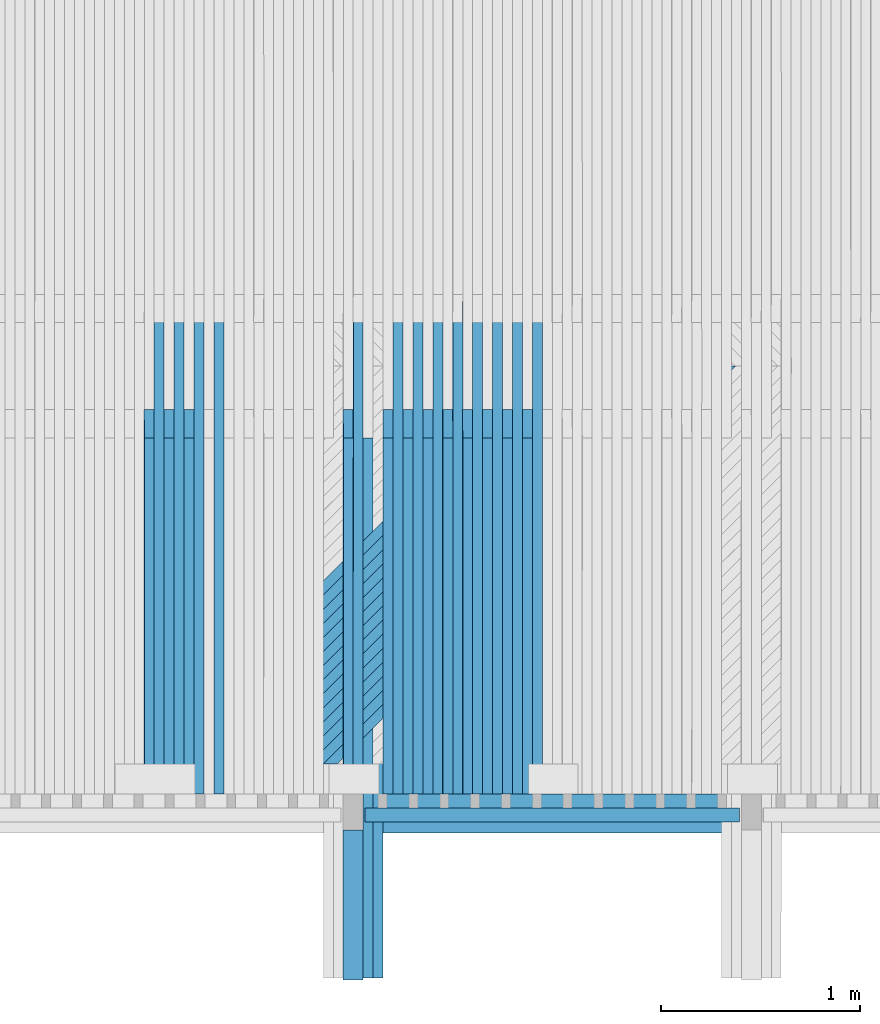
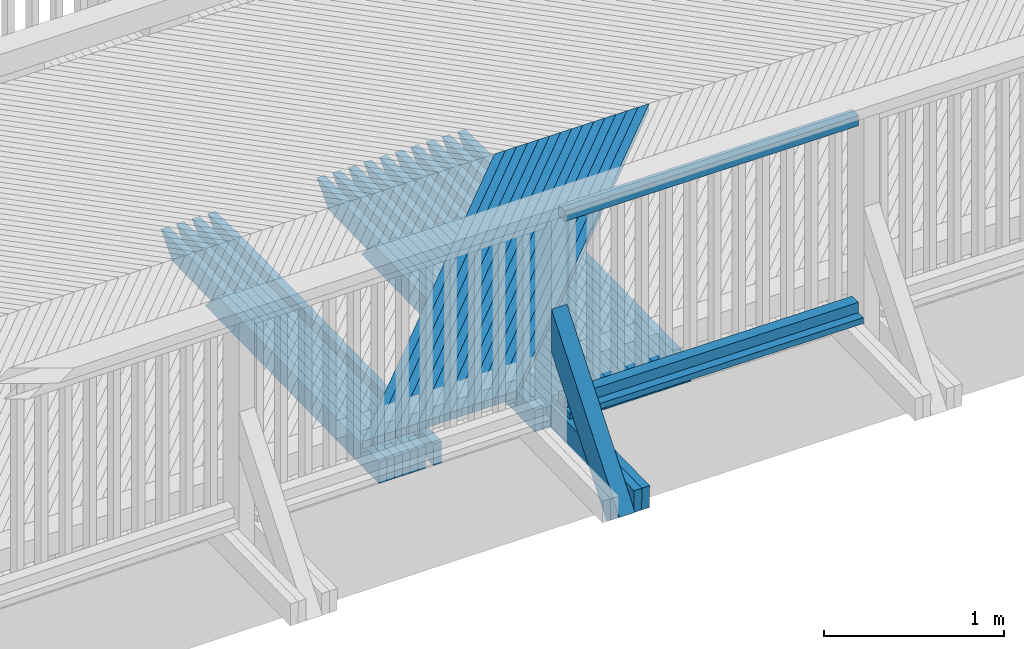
# One storey, part 31 of 53: 44 beams, 1 member.
"""IFC2X3 building model written with IfcOpenShell, lengths in millimetres."""

from ifc_helpers import new_model, si_unit, frame, origin_with_axes, place, context, subcontext, project, spatial, faceted_brep, material, type_object, element, save


model = new_model("IFC2X3")

# Units and contexts
model_context = context("Model", 3, precision=1e-05, world=origin_with_axes())
body_context = subcontext(model_context, "Body", "Model", "MODEL_VIEW")
ifc_project = project(units=[si_unit("LENGTHUNIT", "METRE", prefix="MILLI"), si_unit("AREAUNIT", "SQUARE_METRE"), si_unit("VOLUMEUNIT", "CUBIC_METRE"), si_unit("MASSUNIT", "GRAM", prefix="KILO"), si_unit("TIMEUNIT", "SECOND"), si_unit("PLANEANGLEUNIT", "RADIAN"), si_unit("SOLIDANGLEUNIT", "STERADIAN"), si_unit("THERMODYNAMICTEMPERATUREUNIT", "DEGREE_CELSIUS"), si_unit("LUMINOUSINTENSITYUNIT", "LUMEN")], contexts=[model_context])

# Site, building, storey
site_placement = place(None, origin_with_axes())
site = spatial("IfcSite", under=ifc_project, at=site_placement, Name="Undefined", CompositionType="ELEMENT")
building_placement = place(site_placement, origin_with_axes())
building = spatial("IfcBuilding", under=site, at=building_placement, Name="Undefined", CompositionType="ELEMENT")
storey_placement = place(building_placement, origin_with_axes())
storey = spatial("IfcBuildingStorey", under=building, at=storey_placement, Name="Undefined", CompositionType="ELEMENT", Elevation=0.0)

# Member
ifc_material = material(Name="TIMBER/Timber_Undefined")
member_type = type_object("IfcMemberType", Name="180*100", PredefinedType="NOTDEFINED")
member_placement = place(storey_placement, frame((10000.0064146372, 39351.2316008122, 2950.63480506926), z_axis=(0.0, -0.783926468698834, 0.620853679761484), x_axis=(-4.01699999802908e-06, 0.620853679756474, 0.783926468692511)))
element("IfcMember", 1, at=member_placement, inside=storey, type_object=member_type, material=ifc_material, Name="KAIDEPYLVÄS", ObjectType="180*100", context=body_context, shape_type="Brep", body=[
    faceted_brep([(0.0, 50.0, -89.9999999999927), (0.0, 50.0, 90.0), (1214.99480886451, 50.0000000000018, 90.0000000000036), (987.716194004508, 50.0, -89.9999999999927), (0.0, -49.9999999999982, 90.0000000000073), (1214.99440716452, -49.9999999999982, 90.0000000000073), (-3.63797880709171e-12, -49.9999999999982, -90.0), (987.715792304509, -49.9999999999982, -89.9999999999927)], [[[0, 1, 2, 3]], [[1, 4, 5, 2]], [[4, 6, 7, 5]], [[6, 0, 3, 7]], [[5, 7, 3, 2]], [[6, 4, 1, 0]]]),
])

# Beams
beam_type_1 = type_object("IfcBeamType", Name="70*70", PredefinedType="NOTDEFINED")
for number, where, z_axis, x_axis, name in (
    (2, (10059.8168055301, 40110.0099310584, 3259.925078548), (0.0, -1.0, 0.0), (0.999986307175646, 0.0, -0.00523311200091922), "BEAM"),
    (3, (10059.8168055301, 40110.0099310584, 4524.925078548), (0.0, -1.0, 0.0), (0.999986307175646, 0.0, -0.00523311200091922), "BEAM"),
):
    element("IfcBeam", number, at=place(storey_placement, frame(where, z_axis=z_axis, x_axis=x_axis)), inside=storey, type_object=beam_type_1, material=ifc_material, Name=name, ObjectType="70*70", context=body_context, shape_type="Brep", body=[
        faceted_brep([(-3.63797880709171e-12, 35.0000000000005, -35.0), (-3.63797880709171e-12, 35.0000000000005, 35.0), (1880.02601672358, 34.9999999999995, 35.0), (1880.02601672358, 34.9999999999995, -35.0), (-3.63797880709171e-12, -34.9999999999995, 35.0), (1880.02601672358, -35.0000000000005, 35.0), (-3.63797880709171e-12, -34.9999999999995, -35.0), (1880.02601672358, -35.0000000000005, -35.0)], [[[0, 1, 2, 3]], [[1, 4, 5, 2]], [[4, 6, 7, 5]], [[6, 0, 3, 7]], [[5, 7, 3, 2]], [[6, 4, 1, 0]]]),
    ])
beam_type_2 = type_object("IfcBeamType", Name="195*40", PredefinedType="NOTDEFINED")
beam_1_placement = place(storey_placement, frame((10058.6727720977, 40117.5099310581, 3204.93956033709), z_axis=(0.0, -1.0, 0.0), x_axis=(0.999986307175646, 0.0, -0.00523311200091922)))
element("IfcBeam", 4, at=beam_1_placement, inside=storey, type_object=beam_type_2, material=ifc_material, Name="BEAM", ObjectType="195*40", context=body_context, shape_type="Brep", body=[
    faceted_brep([(0.0, 20.0, -97.5), (0.0, 20.0, 97.5), (1880.22135781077, 19.9999999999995, 97.5), (1880.22135781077, 19.9999999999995, -97.5), (3.63797880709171e-12, -20.0, 97.5), (1880.22135781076, -20.0000000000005, 97.5), (3.63797880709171e-12, -20.0, -97.5), (1880.22135781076, -20.0000000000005, -97.5)], [[[0, 1, 2, 3]], [[1, 4, 5, 2]], [[4, 6, 7, 5]], [[6, 0, 3, 7]], [[5, 7, 3, 2]], [[6, 4, 1, 0]]]),
])
beam_type_3 = type_object("IfcBeamType", Name="50*50", PredefinedType="NOTDEFINED")
for number, where, z_axis, x_axis, name in (
    (5, (11884.1639920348, 42364.5001003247, 3223.59371167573), (0.707016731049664, -0.706981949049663, -0.0174317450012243), (-0.707181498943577, -0.706948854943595, -0.0108463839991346), "BEAM"),
    (6, (11813.441203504, 42364.5001003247, 3224.04579456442), (0.707018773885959, -0.706981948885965, -0.0173486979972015), (-0.707180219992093, -0.706948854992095, -0.0109294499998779), "BEAM"),
    (7, (11742.718362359, 42364.5001003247, 3224.48957030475), (0.707020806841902, -0.706981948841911, -0.0172656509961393), (-0.707178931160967, -0.706948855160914, -0.0110125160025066), "BEAM"),
    (8, (11671.9954695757, 42364.5001003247, 3224.92503889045), (0.707022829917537, -0.706981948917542, -0.017182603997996), (-0.707177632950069, -0.706948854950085, -0.0110955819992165), "BEAM"),
    (9, (11601.2725261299, 42364.5001003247, 3225.35220031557), (0.707024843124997, -0.706981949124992, -0.0170995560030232), (-0.707176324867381, -0.706948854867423, -0.0111786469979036), "BEAM"),
    (10, (11530.5495329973, 42364.5001003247, 3225.7710545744), (0.707026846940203, -0.706981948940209, -0.0170165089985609), (-0.707175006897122, -0.706948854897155, -0.0112617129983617), "BEAM"),
    (11, (11459.8264911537, 42364.5001003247, 3226.18160166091), (0.7070288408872, -0.706981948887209, -0.0169334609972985), (-0.707173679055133, -0.706948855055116, -0.0113447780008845), "BEAM"),
    (12, (11389.1034015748, 42364.5001003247, 3226.58384156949), (0.70703082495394, -0.706981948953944, -0.0168504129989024), (-0.70717234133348, -0.706948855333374, -0.011427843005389), "BEAM"),
    (13, (11318.3802652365, 42364.5001003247, 3226.97777429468), (0.707032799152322, -0.706981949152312, -0.0167673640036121), (-0.707170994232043, -0.70694885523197, -0.0115109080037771), "BEAM"),
    (14, (11247.6570831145, 42364.5001003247, 3227.363399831), (0.707034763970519, -0.706981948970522, -0.0166843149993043), (-0.707169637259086, -0.706948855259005, -0.0115939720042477), "BEAM"),
    (15, (11176.9338561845, 42364.5001003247, 3227.7407181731), (0.707036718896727, -0.706981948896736, -0.0166012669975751), (-0.707168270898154, -0.706948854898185, -0.0116770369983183), "BEAM"),
    (16, (11106.2105854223, 42364.5001003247, 3228.10972931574), (0.707038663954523, -0.706981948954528, -0.0165182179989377), (-0.70716689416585, -0.706948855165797, -0.011760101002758), "BEAM"),
    (17, (11035.4872718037, 42364.5001003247, 3228.47043325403), (0.707040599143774, -0.706981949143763, -0.016435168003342), (-0.707165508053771, -0.706948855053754, -0.0118431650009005), "BEAM"),
    (18, (10964.7639163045, 42364.5001003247, 3228.82282998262), (0.707042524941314, -0.706981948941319, -0.0163521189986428), (-0.707164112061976, -0.706948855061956, -0.0119262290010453), "BEAM"),
):
    element("IfcBeam", number, at=place(storey_placement, frame(where, z_axis=z_axis, x_axis=x_axis)), inside=storey, type_object=beam_type_3, material=ifc_material, Name=name, ObjectType="50*50", context=body_context, shape_type="Brep", body=[
        faceted_brep([(24.8942457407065, 25.0, -25.0), (-25.0086637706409, 24.9999999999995, 24.9999999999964), (2804.34067830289, 25.0, 25.0000000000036), (2854.34301907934, 24.9999999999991, -25.0000000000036), (-26.4222658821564, -25.0000000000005, 25.0000000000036), (2802.92643296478, -25.0, 25.0), (23.4806436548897, -25.0, -25.0), (2852.92877373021, -25.0000000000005, -25.0000000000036)], [[[0, 1, 2, 3]], [[1, 4, 5, 2]], [[4, 6, 7, 5]], [[6, 0, 3, 7]], [[5, 7, 3, 2]], [[6, 4, 1, 0]]]),
    ])
beam_type_4 = type_object("IfcBeamType", Name="150*50", PredefinedType="NOTDEFINED")
beam_2_placement = place(storey_placement, frame((10125.0217457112, 39292.7893475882, 3070.9202994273), z_axis=(0.00353218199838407, -0.0199960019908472, 0.999793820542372), x_axis=(6.92069999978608e-05, 0.999800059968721, 0.0199958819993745)))
element("IfcBeam", 19, at=beam_2_placement, inside=storey, type_object=beam_type_4, material=ifc_material, Name="BEAM", ObjectType="150*50", context=body_context, shape_type="Brep", body=[
    faceted_brep([(1.28420651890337e-08, -24.9999999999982, -74.9999999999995), (-1.28347892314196e-08, -24.9999999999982, 75.0), (-1.28347892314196e-08, 25.0, 75.0), (1.28420651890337e-08, 25.0000000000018, -75.0), (3298.90497884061, 24.9999999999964, -74.9999999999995), (3298.90492234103, -25.0, -74.9999999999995), (3434.49245887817, -25.0, 60.5875365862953), (3074.32497546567, -25.0000000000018, 75.0000000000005), (3074.32503673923, 25.0000000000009, 75.0), (3434.49251531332, 24.9999999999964, 60.5875365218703)], [[[0, 1, 2, 3]], [[0, 3, 4, 5]], [[1, 0, 5, 6, 7]], [[2, 1, 7, 8]], [[4, 3, 2, 8, 9]], [[5, 4, 9, 6]], [[8, 7, 6, 9]]]),
])
beam_3_placement = place(storey_placement, frame((10075.0042720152, 39292.7893321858, 3071.09700537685), z_axis=(0.00336606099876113, -0.0199960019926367, 0.999794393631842), x_axis=(6.61229999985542e-05, 0.999800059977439, 0.0199958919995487)))
element("IfcBeam", 20, at=beam_3_placement, inside=storey, type_object=beam_type_4, material=ifc_material, Name="BEAM", ObjectType="150*50", context=body_context, shape_type="Brep", body=[
    faceted_brep([(1.28420651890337e-08, -24.9999999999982, -74.9999999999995), (-1.28347892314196e-08, -24.9999999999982, 75.0), (-1.28347892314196e-08, 25.0, 75.0), (1.28420651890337e-08, 25.0000000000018, -75.0), (2713.86938248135, -25.0000000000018, 74.9999999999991), (2713.86933800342, 25.0000000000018, 75.0), (2852.32643692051, 24.9999999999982, -75.0000000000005), (2852.32648139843, -25.0000000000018, -75.0000000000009)], [[[0, 1, 2, 3]], [[2, 1, 4, 5]], [[3, 2, 5, 6]], [[0, 3, 6, 7]], [[1, 0, 7, 4]], [[7, 6, 5, 4]]]),
])
beam_4_placement = place(storey_placement, frame((10875.1411031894, 40216.5046076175, 3086.28180497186), z_axis=(0.00469590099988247, -0.0199960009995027, 0.99978903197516), x_axis=(9.39180000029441e-05, 0.999800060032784, 0.0199957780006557)))
element("IfcBeam", 21, at=beam_4_placement, inside=storey, type_object=beam_type_4, material=ifc_material, Name="BEAM", ObjectType="150*50", context=body_context, shape_type="Brep", body=[
    faceted_brep([(1.28420651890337e-08, -24.9999999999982, -74.9999999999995), (-1.28347892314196e-08, -24.9999999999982, 75.0), (-1.28347892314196e-08, 25.0, 75.0), (1.28420651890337e-08, 25.0000000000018, -75.0), (1789.96936433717, -25.0000000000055, 74.9999999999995), (1789.96936408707, 24.9999999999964, 75.0000000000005), (1928.42646328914, 24.9999999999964, -74.9999999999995), (1928.42646353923, -25.0000000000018, -75.0)], [[[0, 1, 2, 3]], [[2, 1, 4, 5]], [[3, 2, 5, 6]], [[0, 3, 6, 7]], [[1, 0, 7, 4]], [[6, 5, 4, 7]]]),
])
beam_5_placement = place(storey_placement, frame((10925.1605446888, 40216.5046076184, 3086.03855962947), z_axis=(0.00486202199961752, -0.0199960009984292, 0.999788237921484), x_axis=(9.72400000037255e-05, 0.999800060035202, 0.0199957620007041)))
element("IfcBeam", 22, at=beam_5_placement, inside=storey, type_object=beam_type_4, material=ifc_material, Name="BEAM", ObjectType="150*50", context=body_context, shape_type="Brep", body=[
    faceted_brep([(1.28420651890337e-08, -24.9999999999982, -74.9999999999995), (-1.28347892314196e-08, -24.9999999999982, 75.0), (-1.28347892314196e-08, 25.0, 75.0), (1.28420651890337e-08, 25.0000000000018, -75.0), (2375.00494422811, 25.0000000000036, -75.0), (2375.0049444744, -24.9999999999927, -74.9999999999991), (2510.5924871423, -24.9999999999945, 60.5875430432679), (2150.42514405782, -24.9999999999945, 75.0), (2150.42515052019, 25.0000000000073, 75.0), (2510.59248715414, 25.0000000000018, 60.5875433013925)], [[[0, 1, 2, 3]], [[0, 3, 4, 5]], [[1, 0, 5, 6, 7]], [[2, 1, 7, 8]], [[4, 3, 2, 8, 9]], [[5, 4, 9, 6]], [[6, 9, 8, 7]]]),
])
beam_6_placement = place(storey_placement, frame((10775.1221713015, 40216.5046076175, 3086.75121569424), z_axis=(0.00452978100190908, -0.01999600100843, 0.999789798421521), x_axis=(9.05950000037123e-05, 0.999800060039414, 0.0199957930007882)))
element("IfcBeam", 23, at=beam_6_placement, inside=storey, type_object=beam_type_4, material=ifc_material, Name="BEAM", ObjectType="150*50", context=body_context, shape_type="Brep", body=[
    faceted_brep([(1.28420651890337e-08, -24.9999999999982, -74.9999999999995), (-1.28347892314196e-08, -24.9999999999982, 75.0), (-1.28347892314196e-08, 25.0, 75.0), (1.28420651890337e-08, 25.0000000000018, -75.0), (1789.96936433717, -25.0000000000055, 74.9999999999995), (1789.96936408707, 24.9999999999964, 75.0000000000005), (1928.42646328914, 24.9999999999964, -74.9999999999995), (1928.42646353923, -25.0000000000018, -75.0)], [[[0, 1, 2, 3]], [[2, 1, 4, 5]], [[3, 2, 5, 6]], [[0, 3, 6, 7]], [[1, 0, 7, 4]], [[6, 5, 4, 7]]]),
])
beam_7_placement = place(storey_placement, frame((10825.141652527, 40216.5046076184, 3086.51628135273), z_axis=(0.00469590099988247, -0.0199960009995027, 0.99978903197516), x_axis=(9.39180000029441e-05, 0.999800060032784, 0.0199957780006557)))
element("IfcBeam", 24, at=beam_7_placement, inside=storey, type_object=beam_type_4, material=ifc_material, Name="BEAM", ObjectType="150*50", context=body_context, shape_type="Brep", body=[
    faceted_brep([(1.28420651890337e-08, -24.9999999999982, -74.9999999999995), (-1.28347892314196e-08, -24.9999999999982, 75.0), (-1.28347892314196e-08, 25.0, 75.0), (1.28420651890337e-08, 25.0000000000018, -75.0), (2375.00494422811, 25.0000000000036, -75.0), (2375.0049444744, -24.9999999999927, -74.9999999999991), (2510.5924871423, -24.9999999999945, 60.5875430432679), (2150.42514405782, -24.9999999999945, 75.0), (2150.42515052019, 25.0000000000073, 75.0), (2510.59248715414, 25.0000000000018, 60.5875433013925)], [[[0, 1, 2, 3]], [[0, 3, 4, 5]], [[1, 0, 5, 6, 7]], [[2, 1, 7, 8]], [[4, 3, 2, 8, 9]], [[5, 4, 9, 6]], [[6, 9, 8, 7]]]),
])
beam_8_placement = place(storey_placement, frame((10675.1031627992, 40216.5046076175, 3087.20400773), z_axis=(0.00436366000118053, -0.0199960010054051, 0.999790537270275), x_axis=(8.72730000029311e-05, 0.999800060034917, 0.0199958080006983)))
element("IfcBeam", 25, at=beam_8_placement, inside=storey, type_object=beam_type_4, material=ifc_material, Name="BEAM", ObjectType="150*50", context=body_context, shape_type="Brep", body=[
    faceted_brep([(1.28420651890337e-08, -24.9999999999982, -74.9999999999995), (-1.28347892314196e-08, -24.9999999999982, 75.0), (-1.28347892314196e-08, 25.0, 75.0), (1.28420651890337e-08, 25.0000000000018, -75.0), (1789.96936433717, -25.0000000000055, 74.9999999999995), (1789.96936408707, 24.9999999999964, 75.0000000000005), (1928.42646328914, 24.9999999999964, -74.9999999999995), (1928.42646353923, -25.0000000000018, -75.0)], [[[0, 1, 2, 3]], [[2, 1, 4, 5]], [[3, 2, 5, 6]], [[0, 3, 6, 7]], [[1, 0, 7, 4]], [[6, 5, 4, 7]]]),
])
beam_9_placement = place(storey_placement, frame((10725.1226823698, 40216.5046076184, 3086.9773843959), z_axis=(0.00452978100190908, -0.01999600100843, 0.999789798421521), x_axis=(9.05950000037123e-05, 0.999800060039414, 0.0199957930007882)))
element("IfcBeam", 26, at=beam_9_placement, inside=storey, type_object=beam_type_4, material=ifc_material, Name="BEAM", ObjectType="150*50", context=body_context, shape_type="Brep", body=[
    faceted_brep([(1.28420651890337e-08, -24.9999999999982, -74.9999999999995), (-1.28347892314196e-08, -24.9999999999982, 75.0), (-1.28347892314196e-08, 25.0, 75.0), (1.28420651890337e-08, 25.0000000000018, -75.0), (2375.00494422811, 25.0000000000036, -75.0), (2375.0049444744, -24.9999999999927, -74.9999999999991), (2510.5924871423, -24.9999999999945, 60.5875430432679), (2150.42514405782, -24.9999999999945, 75.0), (2150.42515052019, 25.0000000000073, 75.0), (2510.59248715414, 25.0000000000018, 60.5875433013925)], [[[0, 1, 2, 3]], [[0, 3, 4, 5]], [[1, 0, 5, 6, 7]], [[2, 1, 7, 8]], [[4, 3, 2, 8, 9]], [[5, 4, 9, 6]], [[6, 9, 8, 7]]]),
])
beam_10_placement = place(storey_placement, frame((10575.0840804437, 40216.5046076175, 3087.64018106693), z_axis=(0.00419753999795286, -0.0199960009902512, 0.99979124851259), x_axis=(8.39510000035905e-05, 0.999800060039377, 0.0199958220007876)))
element("IfcBeam", 27, at=beam_10_placement, inside=storey, type_object=beam_type_4, material=ifc_material, Name="BEAM", ObjectType="150*50", context=body_context, shape_type="Brep", body=[
    faceted_brep([(1.28420651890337e-08, -24.9999999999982, -74.9999999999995), (-1.28347892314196e-08, -24.9999999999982, 75.0), (-1.28347892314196e-08, 25.0, 75.0), (1.28420651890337e-08, 25.0000000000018, -75.0), (1789.96936433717, -25.0000000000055, 74.9999999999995), (1789.96936408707, 24.9999999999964, 75.0000000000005), (1928.42646328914, 24.9999999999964, -74.9999999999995), (1928.42646353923, -25.0000000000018, -75.0)], [[[0, 1, 2, 3]], [[2, 1, 4, 5]], [[3, 2, 5, 6]], [[0, 3, 6, 7]], [[1, 0, 7, 4]], [[6, 5, 4, 7]]]),
])
beam_11_placement = place(storey_placement, frame((10625.1036369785, 40216.5046076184, 3087.4218687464), z_axis=(0.00436366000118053, -0.0199960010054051, 0.999790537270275), x_axis=(8.72730000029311e-05, 0.999800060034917, 0.0199958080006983)))
element("IfcBeam", 28, at=beam_11_placement, inside=storey, type_object=beam_type_4, material=ifc_material, Name="BEAM", ObjectType="150*50", context=body_context, shape_type="Brep", body=[
    faceted_brep([(1.28420651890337e-08, -24.9999999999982, -74.9999999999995), (-1.28347892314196e-08, -24.9999999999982, 75.0), (-1.28347892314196e-08, 25.0, 75.0), (1.28420651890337e-08, 25.0000000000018, -75.0), (2375.00494422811, 25.0000000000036, -75.0), (2375.0049444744, -24.9999999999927, -74.9999999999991), (2510.5924871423, -24.9999999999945, 60.5875430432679), (2150.42514405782, -24.9999999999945, 75.0), (2150.42515052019, 25.0000000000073, 75.0), (2510.59248715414, 25.0000000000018, 60.5875433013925)], [[[0, 1, 2, 3]], [[0, 3, 4, 5]], [[1, 0, 5, 6, 7]], [[2, 1, 7, 8]], [[4, 3, 2, 8, 9]], [[5, 4, 9, 6]], [[6, 9, 8, 7]]]),
])
beam_12_placement = place(storey_placement, frame((10475.0649269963, 40216.5046076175, 3088.05973569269), z_axis=(0.00403141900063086, -0.0199960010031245, 0.999791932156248), x_axis=(8.0628000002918e-05, 0.999800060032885, 0.0199958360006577)))
element("IfcBeam", 29, at=beam_12_placement, inside=storey, type_object=beam_type_4, material=ifc_material, Name="BEAM", ObjectType="150*50", context=body_context, shape_type="Brep", body=[
    faceted_brep([(1.28420651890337e-08, -24.9999999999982, -74.9999999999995), (-1.28347892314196e-08, -24.9999999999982, 75.0), (-1.28347892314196e-08, 25.0, 75.0), (1.28420651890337e-08, 25.0000000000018, -75.0), (1789.96936433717, -25.0000000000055, 74.9999999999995), (1789.96936408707, 24.9999999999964, 75.0000000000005), (1928.42646328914, 24.9999999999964, -74.9999999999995), (1928.42646353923, -25.0000000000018, -75.0)], [[[0, 1, 2, 3]], [[2, 1, 4, 5]], [[3, 2, 5, 6]], [[0, 3, 6, 7]], [[1, 0, 7, 4]], [[6, 5, 4, 7]]]),
])
beam_13_placement = place(storey_placement, frame((10525.0845191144, 40216.5046076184, 3087.84973439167), z_axis=(0.00419753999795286, -0.0199960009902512, 0.99979124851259), x_axis=(8.39510000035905e-05, 0.999800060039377, 0.0199958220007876)))
element("IfcBeam", 30, at=beam_13_placement, inside=storey, type_object=beam_type_4, material=ifc_material, Name="BEAM", ObjectType="150*50", context=body_context, shape_type="Brep", body=[
    faceted_brep([(1.28420651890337e-08, -24.9999999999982, -74.9999999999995), (-1.28347892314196e-08, -24.9999999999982, 75.0), (-1.28347892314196e-08, 25.0, 75.0), (1.28420651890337e-08, 25.0000000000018, -75.0), (2375.00494422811, 25.0000000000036, -75.0), (2375.0049444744, -24.9999999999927, -74.9999999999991), (2510.5924871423, -24.9999999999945, 60.5875430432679), (2150.42514405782, -24.9999999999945, 75.0), (2150.42515052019, 25.0000000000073, 75.0), (2510.59248715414, 25.0000000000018, 60.5875433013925)], [[[0, 1, 2, 3]], [[0, 3, 4, 5]], [[1, 0, 5, 6, 7]], [[2, 1, 7, 8]], [[4, 3, 2, 8, 9]], [[5, 4, 9, 6]], [[6, 9, 8, 7]]]),
])
beam_14_placement = place(storey_placement, frame((10375.0457052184, 40216.5046076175, 3088.46267159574), z_axis=(0.00386529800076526, -0.0199960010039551, 0.99979258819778), x_axis=(7.7306000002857e-05, 0.999800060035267, 0.0199958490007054)))
element("IfcBeam", 31, at=beam_14_placement, inside=storey, type_object=beam_type_4, material=ifc_material, Name="BEAM", ObjectType="150*50", context=body_context, shape_type="Brep", body=[
    faceted_brep([(1.28420651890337e-08, -24.9999999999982, -74.9999999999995), (-1.28347892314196e-08, -24.9999999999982, 75.0), (-1.28347892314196e-08, 25.0, 75.0), (1.28420651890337e-08, 25.0000000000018, -75.0), (1789.96936433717, -25.0000000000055, 74.9999999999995), (1789.96936408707, 24.9999999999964, 75.0000000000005), (1928.42646328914, 24.9999999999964, -74.9999999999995), (1928.42646353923, -25.0000000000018, -75.0)], [[[0, 1, 2, 3]], [[2, 1, 4, 5]], [[3, 2, 5, 6]], [[0, 3, 6, 7]], [[1, 0, 7, 4]], [[6, 5, 4, 7]]]),
])
beam_15_placement = place(storey_placement, frame((10425.0653315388, 40216.5046076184, 3088.26098132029), z_axis=(0.00403141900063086, -0.0199960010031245, 0.999791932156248), x_axis=(8.0628000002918e-05, 0.999800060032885, 0.0199958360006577)))
element("IfcBeam", 32, at=beam_15_placement, inside=storey, type_object=beam_type_4, material=ifc_material, Name="BEAM", ObjectType="150*50", context=body_context, shape_type="Brep", body=[
    faceted_brep([(1.28420651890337e-08, -24.9999999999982, -74.9999999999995), (-1.28347892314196e-08, -24.9999999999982, 75.0), (-1.28347892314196e-08, 25.0, 75.0), (1.28420651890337e-08, 25.0000000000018, -75.0), (2375.00494422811, 25.0000000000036, -75.0), (2375.0049444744, -24.9999999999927, -74.9999999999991), (2510.5924871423, -24.9999999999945, 60.5875430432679), (2150.42514405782, -24.9999999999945, 75.0), (2150.42515052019, 25.0000000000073, 75.0), (2510.59248715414, 25.0000000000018, 60.5875433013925)], [[[0, 1, 2, 3]], [[0, 3, 4, 5]], [[1, 0, 5, 6, 7]], [[2, 1, 7, 8]], [[4, 3, 2, 8, 9]], [[5, 4, 9, 6]], [[6, 9, 8, 7]]]),
])
beam_16_placement = place(storey_placement, frame((10275.0264178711, 40216.5046076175, 3088.84898876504), z_axis=(0.00369917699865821, -0.0199960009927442, 0.999793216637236), x_axis=(7.39830000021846e-05, 0.999800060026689, 0.0199958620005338)))
element("IfcBeam", 33, at=beam_16_placement, inside=storey, type_object=beam_type_4, material=ifc_material, Name="BEAM", ObjectType="150*50", context=body_context, shape_type="Brep", body=[
    faceted_brep([(1.28420651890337e-08, -24.9999999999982, -74.9999999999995), (-1.28347892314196e-08, -24.9999999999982, 75.0), (-1.28347892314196e-08, 25.0, 75.0), (1.28420651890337e-08, 25.0000000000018, -75.0), (1789.96936433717, -25.0000000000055, 74.9999999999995), (1789.96936408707, 24.9999999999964, 75.0000000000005), (1928.42646328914, 24.9999999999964, -74.9999999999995), (1928.42646353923, -25.0000000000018, -75.0)], [[[0, 1, 2, 3]], [[2, 1, 4, 5]], [[3, 2, 5, 6]], [[0, 3, 6, 7]], [[1, 0, 7, 4]], [[6, 5, 4, 7]]]),
])
beam_17_placement = place(storey_placement, frame((10325.046077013, 40216.5046076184, 3088.65560952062), z_axis=(0.00386529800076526, -0.0199960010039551, 0.99979258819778), x_axis=(7.7306000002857e-05, 0.999800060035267, 0.0199958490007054)))
element("IfcBeam", 34, at=beam_17_placement, inside=storey, type_object=beam_type_4, material=ifc_material, Name="BEAM", ObjectType="150*50", context=body_context, shape_type="Brep", body=[
    faceted_brep([(1.28420651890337e-08, -24.9999999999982, -74.9999999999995), (-1.28347892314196e-08, -24.9999999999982, 75.0), (-1.28347892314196e-08, 25.0, 75.0), (1.28420651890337e-08, 25.0000000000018, -75.0), (2375.00494422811, 25.0000000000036, -75.0), (2375.0049444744, -24.9999999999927, -74.9999999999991), (2510.5924871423, -24.9999999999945, 60.5875430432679), (2150.42514405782, -24.9999999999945, 75.0), (2150.42515052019, 25.0000000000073, 75.0), (2510.59248715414, 25.0000000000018, 60.5875433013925)], [[[0, 1, 2, 3]], [[0, 3, 4, 5]], [[1, 0, 5, 6, 7]], [[2, 1, 7, 8]], [[4, 3, 2, 8, 9]], [[5, 4, 9, 6]], [[6, 9, 8, 7]]]),
])
beam_18_placement = place(storey_placement, frame((10175.0070677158, 40216.5046076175, 3089.21868718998), z_axis=(0.00353218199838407, -0.0199960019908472, 0.999793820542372), x_axis=(7.06610000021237e-05, 0.999800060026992, 0.0199958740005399)))
element("IfcBeam", 35, at=beam_18_placement, inside=storey, type_object=beam_type_4, material=ifc_material, Name="BEAM", ObjectType="150*50", context=body_context, shape_type="Brep", body=[
    faceted_brep([(1.28420651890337e-08, -24.9999999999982, -74.9999999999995), (-1.28347892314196e-08, -24.9999999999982, 75.0), (-1.28347892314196e-08, 25.0, 75.0), (1.28420651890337e-08, 25.0000000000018, -75.0), (1789.96936433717, -25.0000000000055, 74.9999999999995), (1789.96936408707, 24.9999999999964, 75.0000000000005), (1928.42646328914, 24.9999999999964, -74.9999999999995), (1928.42646353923, -25.0000000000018, -75.0)], [[[0, 1, 2, 3]], [[2, 1, 4, 5]], [[3, 2, 5, 6]], [[0, 3, 6, 7]], [[1, 0, 7, 4]], [[6, 5, 4, 7]]]),
])
beam_19_placement = place(storey_placement, frame((10225.0267582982, 40216.5046076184, 3089.03361898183), z_axis=(0.00369917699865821, -0.0199960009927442, 0.999793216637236), x_axis=(7.39830000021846e-05, 0.999800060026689, 0.0199958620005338)))
element("IfcBeam", 36, at=beam_19_placement, inside=storey, type_object=beam_type_4, material=ifc_material, Name="BEAM", ObjectType="150*50", context=body_context, shape_type="Brep", body=[
    faceted_brep([(1.28420651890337e-08, -24.9999999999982, -74.9999999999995), (-1.28347892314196e-08, -24.9999999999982, 75.0), (-1.28347892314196e-08, 25.0, 75.0), (1.28420651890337e-08, 25.0000000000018, -75.0), (2375.00494422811, 25.0000000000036, -75.0), (2375.0049444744, -24.9999999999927, -74.9999999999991), (2510.5924871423, -24.9999999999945, 60.5875430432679), (2150.42514405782, -24.9999999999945, 75.0), (2150.42515052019, 25.0000000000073, 75.0), (2510.59248715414, 25.0000000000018, 60.5875433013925)], [[[0, 1, 2, 3]], [[0, 3, 4, 5]], [[1, 0, 5, 6, 7]], [[2, 1, 7, 8]], [[4, 3, 2, 8, 9]], [[5, 4, 9, 6]], [[6, 9, 8, 7]]]),
])
beam_20_placement = place(storey_placement, frame((9974.96819002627, 40216.5046076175, 3089.90822776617), z_axis=(0.00319994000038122, -0.0199960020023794, 0.999794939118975), x_axis=(6.36899999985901e-05, 0.99980005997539, 0.0199958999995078)))
element("IfcBeam", 37, at=beam_20_placement, inside=storey, type_object=beam_type_4, material=ifc_material, Name="BEAM", ObjectType="150*50", context=body_context, shape_type="Brep", body=[
    faceted_brep([(1.28420651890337e-08, -24.9999999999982, -74.9999999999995), (-1.28347892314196e-08, -24.9999999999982, 75.0), (-1.28347892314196e-08, 25.0, 75.0), (1.28420651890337e-08, 25.0000000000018, -75.0), (1789.96936433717, -25.0000000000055, 74.9999999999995), (1789.96936408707, 24.9999999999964, 75.0000000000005), (1928.42646328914, 24.9999999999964, -74.9999999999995), (1928.42646353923, -25.0000000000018, -75.0)], [[[0, 1, 2, 3]], [[2, 1, 4, 5]], [[3, 2, 5, 6]], [[0, 3, 6, 7]], [[1, 0, 7, 4]], [[6, 5, 4, 7]]]),
])
beam_21_placement = place(storey_placement, frame((10024.987939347, 40216.5046076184, 3089.73978164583), z_axis=(0.00336606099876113, -0.0199960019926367, 0.999794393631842), x_axis=(6.73390000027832e-05, 0.999800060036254, 0.0199958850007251)))
element("IfcBeam", 38, at=beam_21_placement, inside=storey, type_object=beam_type_4, material=ifc_material, Name="BEAM", ObjectType="150*50", context=body_context, shape_type="Brep", body=[
    faceted_brep([(1.28420651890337e-08, -24.9999999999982, -74.9999999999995), (-1.28347892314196e-08, -24.9999999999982, 75.0), (-1.28347892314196e-08, 25.0, 75.0), (1.28420651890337e-08, 25.0000000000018, -75.0), (2375.00494422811, 25.0000000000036, -75.0), (2375.0049444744, -24.9999999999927, -74.9999999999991), (2510.5924871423, -24.9999999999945, 60.5875430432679), (2150.42514405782, -24.9999999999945, 75.0), (2150.42515052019, 25.0000000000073, 75.0), (2510.59248715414, 25.0000000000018, 60.5875433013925)], [[[0, 1, 2, 3]], [[0, 3, 4, 5]], [[1, 0, 5, 6, 7]], [[2, 1, 7, 8]], [[4, 3, 2, 8, 9]], [[5, 4, 9, 6]], [[6, 9, 8, 7]]]),
])
beam_22_placement = place(storey_placement, frame((9325.4504565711, 40216.5046076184, 3091.68855715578), z_axis=(0.00220408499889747, -0.0199960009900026, 0.999797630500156), x_axis=(4.4081000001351e-05, 0.999800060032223, 0.0199959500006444)))
element("IfcBeam", 39, at=beam_22_placement, inside=storey, type_object=beam_type_4, material=ifc_material, Name="BEAM", ObjectType="150*50", context=body_context, shape_type="Brep", body=[
    faceted_brep([(1.28420651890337e-08, -24.9999999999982, -74.9999999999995), (-1.28347892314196e-08, -24.9999999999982, 75.0), (-1.28347892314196e-08, 25.0, 75.0), (1.28420651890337e-08, 25.0000000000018, -75.0), (2375.00494422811, 25.0000000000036, -75.0), (2375.0049444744, -24.9999999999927, -74.9999999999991), (2510.5924871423, -24.9999999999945, 60.5875430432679), (2150.42520082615, -25.0000000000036, 75.0000000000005), (2150.42515052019, 25.0000000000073, 75.0), (2510.59248715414, 25.0000000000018, 60.5875433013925)], [[[0, 1, 2, 3]], [[0, 3, 4, 5]], [[1, 0, 5, 6, 7]], [[2, 1, 7, 8]], [[4, 3, 2, 8, 9]], [[5, 4, 9, 6]], [[8, 7, 6, 9]]]),
])
beam_23_placement = place(storey_placement, frame((9175.41071867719, 40216.5046076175, 3092.00243602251), z_axis=(0.00187184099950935, -0.0199960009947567, 0.999798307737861), x_axis=(3.7436000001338e-05, 0.999800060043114, 0.0199959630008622)))
element("IfcBeam", 40, at=beam_23_placement, inside=storey, type_object=beam_type_4, material=ifc_material, Name="BEAM", ObjectType="150*50", context=body_context, shape_type="Brep", body=[
    faceted_brep([(1.28420651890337e-08, -24.9999999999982, -74.9999999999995), (-1.28347892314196e-08, -24.9999999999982, 75.0), (-1.28347892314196e-08, 25.0, 75.0), (1.28420651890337e-08, 25.0000000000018, -75.0), (1789.96936433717, -25.0000000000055, 74.9999999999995), (1789.96936408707, 24.9999999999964, 75.0000000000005), (1928.42646328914, 24.9999999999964, -74.9999999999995), (1928.42646353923, -25.0000000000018, -75.0)], [[[0, 1, 2, 3]], [[2, 1, 4, 5]], [[3, 2, 5, 6]], [[0, 3, 6, 7]], [[1, 0, 7, 4]], [[6, 5, 4, 7]]]),
])
beam_24_placement = place(storey_placement, frame((9225.43064771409, 40216.5046076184, 3091.9004784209), z_axis=(0.00203796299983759, -0.0199960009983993, 0.999797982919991), x_axis=(4.07590000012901e-05, 0.999800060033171, 0.0199959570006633)))
element("IfcBeam", 41, at=beam_24_placement, inside=storey, type_object=beam_type_4, material=ifc_material, Name="BEAM", ObjectType="150*50", context=body_context, shape_type="Brep", body=[
    faceted_brep([(1.28420651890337e-08, -24.9999999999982, -74.9999999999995), (-1.28347892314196e-08, -24.9999999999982, 75.0), (-1.28347892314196e-08, 25.0, 75.0), (1.28420651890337e-08, 25.0000000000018, -75.0), (2375.00494422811, 25.0000000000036, -75.0), (2375.0049444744, -24.9999999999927, -74.9999999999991), (2510.5924871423, -24.9999999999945, 60.5875430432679), (2150.42520082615, -25.0000000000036, 75.0000000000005), (2150.4252009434, 24.9999999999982, 75.0000000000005), (2510.59248715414, 25.0000000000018, 60.5875433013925)], [[[0, 1, 2, 3]], [[0, 3, 4, 5]], [[1, 0, 5, 6, 7]], [[2, 1, 7, 8]], [[4, 3, 2, 8, 9]], [[5, 4, 9, 6]], [[8, 7, 6, 9]]]),
])
beam_25_placement = place(storey_placement, frame((9075.39085973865, 40216.5046076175, 3092.18942737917), z_axis=(0.00170571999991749, -0.0199960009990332, 0.999798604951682), x_axis=(3.41140000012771e-05, 0.999800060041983, 0.0199959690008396)))
element("IfcBeam", 42, at=beam_25_placement, inside=storey, type_object=beam_type_4, material=ifc_material, Name="BEAM", ObjectType="150*50", context=body_context, shape_type="Brep", body=[
    faceted_brep([(1.28420651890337e-08, -24.9999999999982, -74.9999999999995), (-1.28347892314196e-08, -24.9999999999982, 75.0), (-1.28347892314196e-08, 25.0, 75.0), (1.28420651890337e-08, 25.0000000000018, -75.0), (1789.96936433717, -25.0000000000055, 74.9999999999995), (1789.96936408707, 24.9999999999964, 75.0000000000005), (1928.42646328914, 24.9999999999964, -74.9999999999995), (1928.42646353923, -25.0000000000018, -75.0)], [[[0, 1, 2, 3]], [[2, 1, 4, 5]], [[3, 2, 5, 6]], [[0, 3, 6, 7]], [[1, 0, 7, 4]], [[6, 5, 4, 7]]]),
])
beam_26_placement = place(storey_placement, frame((9125.41080502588, 40216.5046076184, 3092.09578085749), z_axis=(0.00187184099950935, -0.0199960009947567, 0.999798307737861), x_axis=(3.7436000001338e-05, 0.999800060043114, 0.0199959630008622)))
element("IfcBeam", 43, at=beam_26_placement, inside=storey, type_object=beam_type_4, material=ifc_material, Name="BEAM", ObjectType="150*50", context=body_context, shape_type="Brep", body=[
    faceted_brep([(1.28420651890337e-08, -24.9999999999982, -74.9999999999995), (-1.28347892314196e-08, -24.9999999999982, 75.0), (-1.28347892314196e-08, 25.0, 75.0), (1.28420651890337e-08, 25.0000000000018, -75.0), (2375.00494422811, 25.0000000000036, -75.0), (2375.0049444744, -24.9999999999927, -74.9999999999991), (2510.5924871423, -24.9999999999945, 60.5875430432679), (2150.42514405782, -24.9999999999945, 75.0), (2150.42515052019, 25.0000000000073, 75.0), (2510.59248715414, 25.0000000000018, 60.5875433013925)], [[[0, 1, 2, 3]], [[0, 3, 4, 5]], [[1, 0, 5, 6, 7]], [[2, 1, 7, 8]], [[4, 3, 2, 8, 9]], [[5, 4, 9, 6]], [[6, 9, 8, 7]]]),
])
beam_27_placement = place(storey_placement, frame((8975.37097111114, 40216.5046076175, 3092.35979989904), z_axis=(0.00153959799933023, -0.0199960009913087, 0.999798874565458), x_axis=(3.0791000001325e-05, 0.999800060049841, 0.0199959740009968)))
element("IfcBeam", 44, at=beam_27_placement, inside=storey, type_object=beam_type_4, material=ifc_material, Name="BEAM", ObjectType="150*50", context=body_context, shape_type="Brep", body=[
    faceted_brep([(1.28420651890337e-08, -24.9999999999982, -74.9999999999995), (-1.28347892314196e-08, -24.9999999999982, 75.0), (-1.28347892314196e-08, 25.0, 75.0), (1.28420651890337e-08, 25.0000000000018, -75.0), (1928.42646353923, -25.0000000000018, -75.0), (1789.96936433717, -25.0000000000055, 74.9999999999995), (1789.96936408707, 24.9999999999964, 75.0000000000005), (1928.42646328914, 24.9999999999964, -74.9999999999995)], [[[0, 1, 2, 3]], [[1, 0, 4, 5]], [[2, 1, 5, 6]], [[3, 2, 6, 7]], [[0, 3, 7, 4]], [[7, 6, 5, 4]]]),
])
beam_28_placement = place(storey_placement, frame((9025.39093126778, 40216.5046076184, 3092.27446445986), z_axis=(0.00170571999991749, -0.0199960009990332, 0.999798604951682), x_axis=(3.41140000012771e-05, 0.999800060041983, 0.0199959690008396)))
element("IfcBeam", 45, at=beam_28_placement, inside=storey, type_object=beam_type_4, material=ifc_material, Name="BEAM", ObjectType="150*50", context=body_context, shape_type="Brep", body=[
    faceted_brep([(1.28420651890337e-08, -24.9999999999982, -74.9999999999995), (-1.28347892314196e-08, -24.9999999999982, 75.0), (-1.28347892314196e-08, 25.0, 75.0), (1.28420651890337e-08, 25.0000000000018, -75.0), (2375.00494422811, 25.0000000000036, -75.0), (2375.0049444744, -24.9999999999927, -74.9999999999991), (2510.5924871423, -24.9999999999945, 60.5875430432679), (2150.42514405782, -24.9999999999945, 75.0), (2150.42515052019, 25.0000000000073, 75.0), (2510.59248715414, 25.0000000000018, 60.5875433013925)], [[[0, 1, 2, 3]], [[0, 3, 4, 5]], [[1, 0, 5, 6, 7]], [[2, 1, 7, 8]], [[4, 3, 2, 8, 9]], [[5, 4, 9, 6]], [[6, 9, 8, 7]]]),
])

save(model, "model.ifc")
